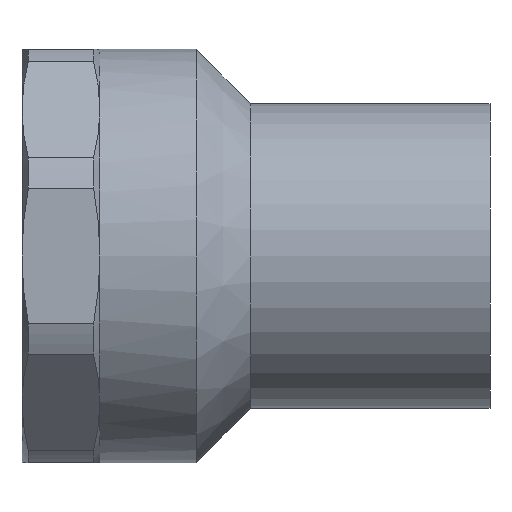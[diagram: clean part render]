
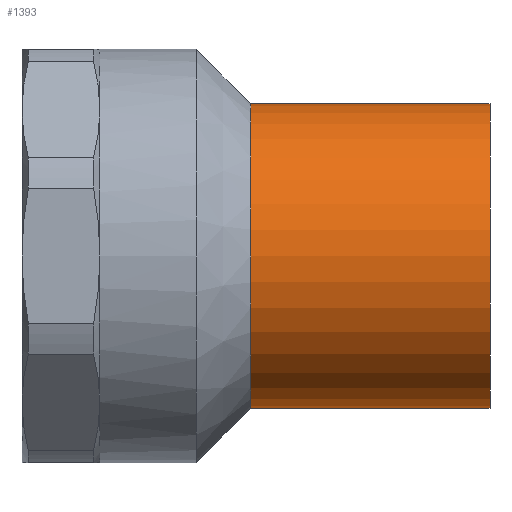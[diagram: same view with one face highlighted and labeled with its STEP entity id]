
A CAD part, front view. The second image highlights one B-rep face of the part: STEP entity #1393.
In plain terms, the highlighted cylindrical face has radius 14 mm (diameter 28 mm), a full revolution.
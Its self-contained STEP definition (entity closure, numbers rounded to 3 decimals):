
#1359=CARTESIAN_POINT('',(21.,14.,0.0));
#1360=VERTEX_POINT('',#1359);
#1361=CARTESIAN_POINT('',(21.,0.,0.0));
#1362=DIRECTION('',(1.0,0.0,0.0));
#1363=DIRECTION('',(0.0,1.0,0.0));
#1364=AXIS2_PLACEMENT_3D('',#1361,#1362,#1363);
#1365=CIRCLE('',#1364,14.);
#1366=EDGE_CURVE('',#1360,#1360,#1365,.T.);
#1374=CARTESIAN_POINT('',(32.,0.,0.0));
#1375=DIRECTION('',(1.0,0.,0.0));
#1376=DIRECTION('',(0.0,1.0,0.0));
#1377=AXIS2_PLACEMENT_3D('',#1374,#1375,#1376);
#1378=CYLINDRICAL_SURFACE('',#1377,14.);
#1379=CARTESIAN_POINT('',(43.0,14.,0.0));
#1380=VERTEX_POINT('',#1379);
#1381=CARTESIAN_POINT('',(43.0,0.,0.0));
#1382=DIRECTION('',(1.0,0.0,0.0));
#1383=DIRECTION('',(0.0,1.0,0.0));
#1384=AXIS2_PLACEMENT_3D('',#1381,#1382,#1383);
#1385=CIRCLE('',#1384,14.0);
#1386=EDGE_CURVE('',#1380,#1380,#1385,.T.);
#1387=ORIENTED_EDGE('',*,*,#1386,.F.);
#1388=EDGE_LOOP('',(#1387));
#1389=FACE_OUTER_BOUND('',#1388,.T.);
#1390=ORIENTED_EDGE('',*,*,#1366,.T.);
#1391=EDGE_LOOP('',(#1390));
#1392=FACE_BOUND('',#1391,.T.);
#1393=ADVANCED_FACE('',(#1389,#1392),#1378,.T.);
